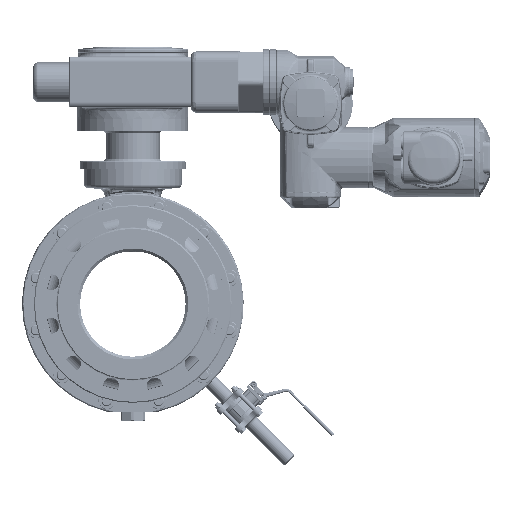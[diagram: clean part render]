
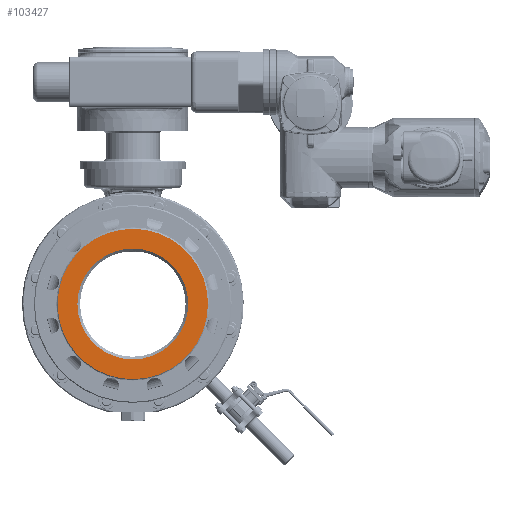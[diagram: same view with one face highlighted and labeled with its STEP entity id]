
A CAD part, left-side view. The second image highlights one B-rep face of the part: STEP entity #103427.
In plain terms, the highlighted planar face has unit normal (-1, 0, 0).
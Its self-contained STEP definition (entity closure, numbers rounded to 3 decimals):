
#21757=CARTESIAN_POINT('',(-228.5,0.,0.));
#21758=DIRECTION('',(1.,0.,0.));
#21759=DIRECTION('',(0.,0.,1.));
#21760=AXIS2_PLACEMENT_3D('',#21757,#21758,#21759);
#21766=CARTESIAN_POINT('',(-228.5,0.,0.));
#21767=DIRECTION('',(-1.,0.,0.));
#21768=DIRECTION('',(0.,0.,1.));
#21769=AXIS2_PLACEMENT_3D('',#21766,#21767,#21768);
#21771=CARTESIAN_POINT('',(-228.5,0.,0.));
#21772=DIRECTION('',(1.,0.,0.));
#21773=DIRECTION('',(0.,0.,1.));
#21774=AXIS2_PLACEMENT_3D('',#21771,#21772,#21773);
#21776=CARTESIAN_POINT('',(-228.5,0.,0.));
#21777=DIRECTION('',(-1.,0.,0.));
#21778=DIRECTION('',(0.,0.,1.));
#21779=AXIS2_PLACEMENT_3D('',#21776,#21777,#21778);
#39356=CARTESIAN_POINT('',(-228.5,0.,105.));
#39357=CARTESIAN_POINT('',(-228.5,0.,-105.));
#39358=VERTEX_POINT('',#39356);
#39359=VERTEX_POINT('',#39357);
#39378=CARTESIAN_POINT('',(-228.5,0.,142.5));
#39379=CARTESIAN_POINT('',(-228.5,0.,-142.5));
#39380=VERTEX_POINT('',#39378);
#39381=VERTEX_POINT('',#39379);
#103412=CARTESIAN_POINT('',(-228.5,0.,0.));
#103413=DIRECTION('',(-1.,0.,0.));
#103414=DIRECTION('',(0.,0.,-1.));
#103415=AXIS2_PLACEMENT_3D('',#103412,#103413,#103414);
#103416=PLANE('',#103415);
#103418=ORIENTED_EDGE('',*,*,#103417,.T.);
#103420=ORIENTED_EDGE('',*,*,#103419,.F.);
#103421=EDGE_LOOP('',(#103418,#103420));
#103422=FACE_OUTER_BOUND('',#103421,.F.);
#103423=ORIENTED_EDGE('',*,*,#103406,.T.);
#103424=ORIENTED_EDGE('',*,*,#103392,.F.);
#103425=EDGE_LOOP('',(#103423,#103424));
#103426=FACE_BOUND('',#103425,.F.);
#103427=ADVANCED_FACE('',(#103422,#103426),#103416,.T.);
#21761=CIRCLE('',#21760,105.);
#21770=CIRCLE('',#21769,105.);
#21775=CIRCLE('',#21774,142.5);
#21780=CIRCLE('',#21779,142.5);
#103392=EDGE_CURVE('',#39358,#39359,#21761,.T.);
#103406=EDGE_CURVE('',#39358,#39359,#21770,.T.);
#103417=EDGE_CURVE('',#39380,#39381,#21775,.T.);
#103419=EDGE_CURVE('',#39380,#39381,#21780,.T.);
